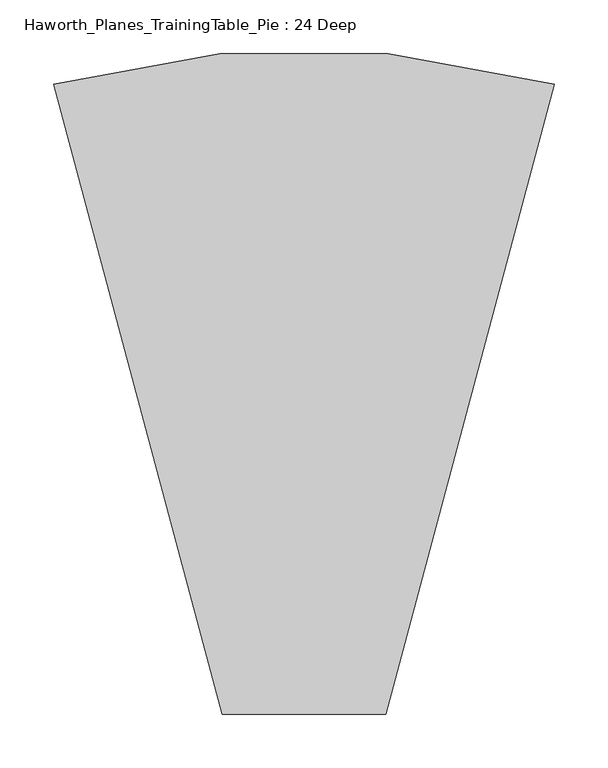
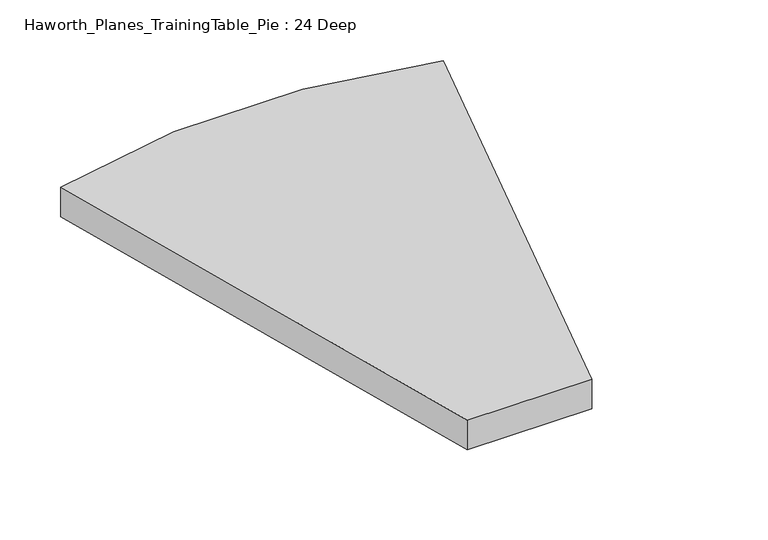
"""IFC4 building model written with IfcOpenShell, lengths in millimetres: furniture geometry, Haworth_Planes_TrainingTable_Pie : 24 Deep."""

from ifc_helpers import new_model, si_unit, point, frame, frame_2d, origin, place, context, project, spatial, polyline, circle_curve, trimmed, segment, composite_curve, outline, extrude, source, transform, mapped, element, save


def haworth_planes_trainingtable_pie_24_deep_74494f69(model_context):
    return source(origin(), model_context, "Body", "SweptSolid", [
        extrude(outline(composite_curve([segment(polyline([(-59.257819, -76.2), (-217.0339089, 512.6283837)]), True, "CONTINUOUS"), segment(trimmed(circle_curve(frame_2d((16.942181, -321.0945777)), 865.9323224), [point((-217.0339089, 512.6283837))], [point((250.9182709, 512.6283837))], False, "CARTESIAN"), True, "CONTINUOUS"), segment(polyline([(250.9182709, 512.6283837), (93.142181, -76.2), (-59.257819, -76.2)]), True, "CONTINUOUS")], self_intersect=False)), frame((0.0, 0.0, 698.5), z_axis=(0.0, 0.0, 1.0), x_axis=(1.0, 0.0, 0.0)), (0.0, 0.0, 1.0), 38.1),
    ])


if __name__ == "__main__":
    model = new_model("IFC4")
    model_context = context("Model", 3, world=origin())
    ifc_project = project(units=[si_unit("LENGTHUNIT", "METRE", prefix="MILLI")], contexts=[model_context])
    site = spatial("IfcSite", under=ifc_project)
    building = spatial("IfcBuilding", under=site)
    placement = place(None, origin())
    haworth_planes_trainingtable_pie_24_deep_shape = haworth_planes_trainingtable_pie_24_deep_74494f69(model_context)
    element("IfcFurniture", 1, ObjectType="Haworth_Planes_TrainingTable_Pie : 24 Deep", at=placement, inside=building, context=model_context, shape_type="MappedRepresentation", body=[
        mapped(haworth_planes_trainingtable_pie_24_deep_shape, transform((0.0, 0.0, 0.0), x_axis=(1.0, 0.0, 0.0), y_axis=(0.0, 1.0, 0.0), z_axis=(0.0, 0.0, 1.0))),
    ])
    save(model, "model.ifc")
